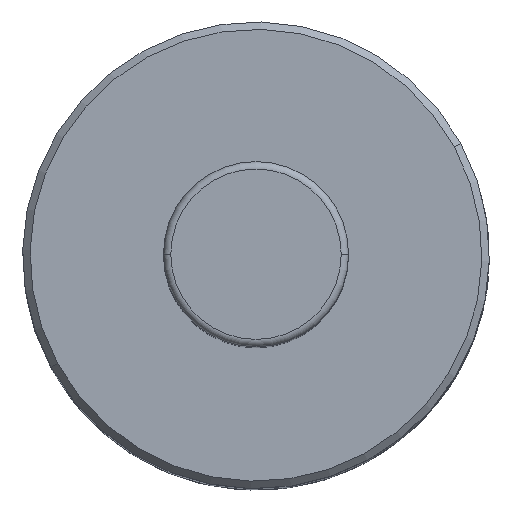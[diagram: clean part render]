
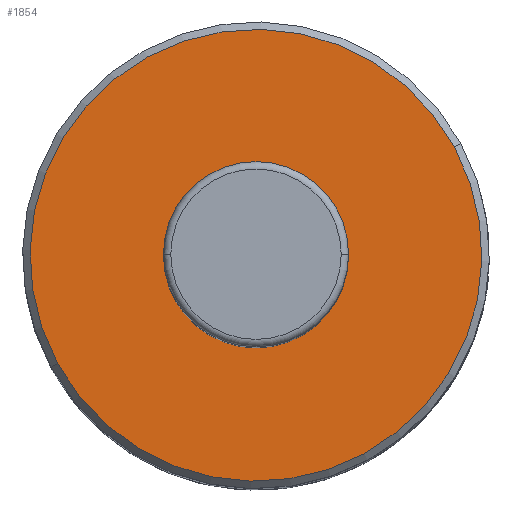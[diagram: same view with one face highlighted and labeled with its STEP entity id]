
A CAD part, top view. The second image highlights one B-rep face of the part: STEP entity #1854.
In plain terms, the highlighted planar face has unit normal (0, 0, 1).
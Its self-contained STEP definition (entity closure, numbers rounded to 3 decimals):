
#1809 = VERTEX_POINT('',#1810);
#1810 = CARTESIAN_POINT('',(-26.766,-14.622,123.));
#1816 = EDGE_CURVE('',#1809,#1817,#1819,.T.);
#1817 = VERTEX_POINT('',#1818);
#1818 = CARTESIAN_POINT('',(26.766,14.622,123.));
#1819 = CIRCLE('',#1820,30.5);
#1820 = AXIS2_PLACEMENT_3D('',#1821,#1822,#1823);
#1821 = CARTESIAN_POINT('',(0.,0.,123.));
#1822 = DIRECTION('',(0.,0.,-1.));
#1823 = DIRECTION('',(-1.,0.,0.));
#1841 = EDGE_CURVE('',#1817,#1809,#1842,.T.);
#1842 = CIRCLE('',#1843,30.5);
#1843 = AXIS2_PLACEMENT_3D('',#1844,#1845,#1846);
#1844 = CARTESIAN_POINT('',(0.,0.,123.));
#1845 = DIRECTION('',(0.,0.,-1.));
#1846 = DIRECTION('',(-1.,0.,0.));
#1854 = ADVANCED_FACE('',(#1855,#1859),#1879,.T.);
#1855 = FACE_BOUND('',#1856,.T.);
#1856 = EDGE_LOOP('',(#1857,#1858));
#1857 = ORIENTED_EDGE('',*,*,#1841,.F.);
#1858 = ORIENTED_EDGE('',*,*,#1816,.F.);
#1859 = FACE_BOUND('',#1860,.T.);
#1860 = EDGE_LOOP('',(#1861,#1872));
#1861 = ORIENTED_EDGE('',*,*,#1862,.F.);
#1862 = EDGE_CURVE('',#1863,#1865,#1867,.T.);
#1863 = VERTEX_POINT('',#1864);
#1864 = CARTESIAN_POINT('',(12.5,0.,123.));
#1865 = VERTEX_POINT('',#1866);
#1866 = CARTESIAN_POINT('',(-12.5,0.,123.));
#1867 = CIRCLE('',#1868,12.5);
#1868 = AXIS2_PLACEMENT_3D('',#1869,#1870,#1871);
#1869 = CARTESIAN_POINT('',(0.,0.,123.));
#1870 = DIRECTION('',(0.,0.,1.));
#1871 = DIRECTION('',(1.,0.,0.));
#1872 = ORIENTED_EDGE('',*,*,#1873,.F.);
#1873 = EDGE_CURVE('',#1865,#1863,#1874,.T.);
#1874 = CIRCLE('',#1875,12.5);
#1875 = AXIS2_PLACEMENT_3D('',#1876,#1877,#1878);
#1876 = CARTESIAN_POINT('',(0.,0.,123.));
#1877 = DIRECTION('',(0.,0.,1.));
#1878 = DIRECTION('',(1.,0.,0.));
#1879 = PLANE('',#1880);
#1880 = AXIS2_PLACEMENT_3D('',#1881,#1882,#1883);
#1881 = CARTESIAN_POINT('',(30.5,0.,123.));
#1882 = DIRECTION('',(0.,0.,1.));
#1883 = DIRECTION('',(1.,0.,0.));
